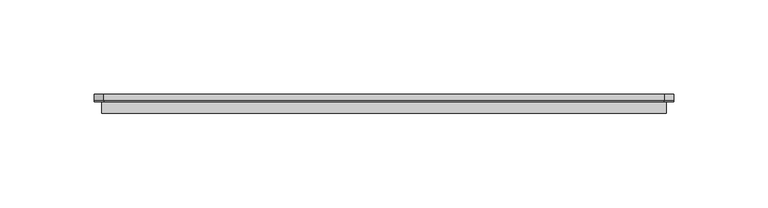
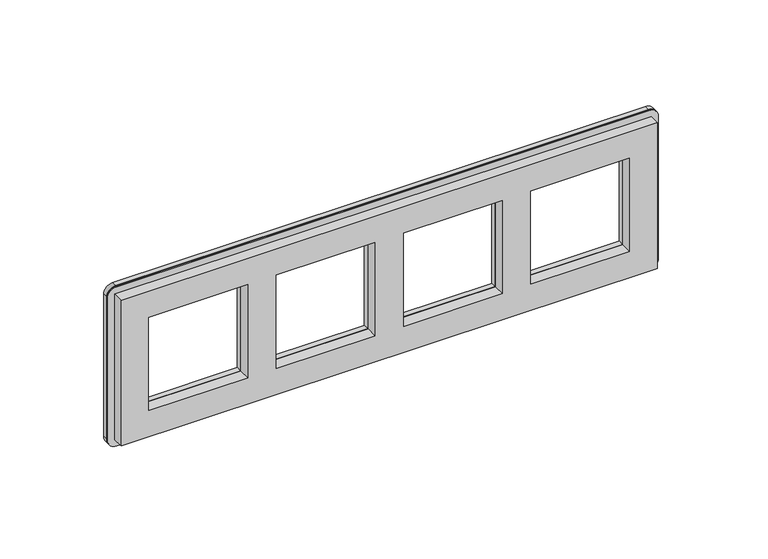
"""IFC4 building model written with IfcOpenShell, lengths in millimetres: proxy geometry, IEK_Brite_Рамка : x4_РУ-4-1-Бр металл алюм. RE."""

from ifc_helpers import new_model, si_unit, point, frame, frame_2d, origin, place, context, project, spatial, polyline, circle_curve, trimmed, segment, composite_curve, outline, extrude, source, transform, mapped, element, save
from ifc_brep_helpers import plane_surface, cylinder_surface, advanced_brep


def electrical_fixtures_f44dfe37(model_context):
    return source(origin(), model_context, "Body", "SolidModel", [
        extrude(outline(composite_curve([segment(trimmed(circle_curve(frame_2d((42.0, -255.0)), 5.0), [point((47.0, -255.0))], [point((42.0, -260.0))], False, "CARTESIAN"), True, "CONTINUOUS"), segment(polyline([(42.0, -260.0), (-42.0, -260.0)]), True, "CONTINUOUS"), segment(trimmed(circle_curve(frame_2d((-42.0, -255.0)), 5.0), [point((-42.0, -260.0))], [point((-47.0, -255.0))], False, "CARTESIAN"), True, "CONTINUOUS"), segment(polyline([(-47.0, -255.0), (-47.0, 42.0)]), True, "CONTINUOUS"), segment(trimmed(circle_curve(frame_2d((-42.0, 42.0)), 5.0), [point((-47.0, 42.0))], [point((-42.0, 47.0))], False, "CARTESIAN"), True, "CONTINUOUS"), segment(polyline([(-42.0, 47.0), (42.0, 47.0)]), True, "CONTINUOUS"), segment(trimmed(circle_curve(frame_2d((42.0, 42.0)), 5.0), [point((42.0, 47.0))], [point((47.0, 42.0))], False, "CARTESIAN"), True, "CONTINUOUS"), segment(polyline([(47.0, 42.0), (47.0, -255.0)]), True, "CONTINUOUS")], self_intersect=False), holes=[polyline([(-27.5, -240.5), (27.5, -240.5), (27.5, -185.5), (-27.5, -185.5), (-27.5, -240.5)]), polyline([(-27.5, -169.5), (27.5, -169.5), (27.5, -114.5), (-27.5, -114.5), (-27.5, -169.5)]), polyline([(-27.5, -98.5), (27.5, -98.5), (27.5, -43.5), (-27.5, -43.5), (-27.5, -98.5)]), polyline([(-27.5, -27.5), (27.5, -27.5), (27.5, 27.5), (-27.5, 27.5), (-27.5, -27.5)])]), frame((0.0, 7.0, 0.0), z_axis=(0.0, 1.0, 0.0), x_axis=(0.0, 0.0, 1.0)), (0.0, 0.0, 1.0), 3.0),
        advanced_brep(
        [(-255.0, 7.0, 47.0), (42.0, 7.0, 47.0), (47.0, 7.0, 42.0), (47.0, 7.0, -42.0), (42.0, 7.0, -47.0), (-255.0, 7.0, -47.0), (-260.0, 7.0, -42.0), (-260.0, 7.0, 42.0), (-240.5, 7.0, 27.5), (-240.5, 7.0, -27.5), (-185.5, 7.0, -27.5), (-185.5, 7.0, 27.5), (-169.5, 7.0, 27.5), (-169.5, 7.0, -27.5), (-114.5, 7.0, -27.5), (-114.5, 7.0, 27.5), (-98.5, 7.0, 27.5), (-98.5, 7.0, -27.5), (-43.5, 7.0, -27.5), (-43.5, 7.0, 27.5), (-27.5, 7.0, 27.5), (-27.5, 7.0, -27.5), (27.5, 7.0, -27.5), (27.5, 7.0, 27.5), (-256.0, 0.0, 43.0), (-256.0, 0.0, -43.0), (43.0, 0.0, -43.0), (43.0, 0.0, 43.0), (-240.5, 0.0, -27.5), (-240.5, 0.0, 27.5), (-185.5, 0.0, 27.5), (-185.5, 0.0, -27.5), (-169.5, 0.0, -27.5), (-169.5, 0.0, 27.5), (-114.5, 0.0, 27.5), (-114.5, 0.0, -27.5), (-98.5, 0.0, -27.5), (-98.5, 0.0, 27.5), (-43.5, 0.0, 27.5), (-43.5, 0.0, -27.5), (-27.5, 0.0, -27.5), (-27.5, 0.0, 27.5), (27.5, 0.0, 27.5), (27.5, 0.0, -27.5), (-256.0, 6.0, 43.0), (-256.0, 6.0, -43.0), (43.0, 6.0, -43.0), (43.0, 6.0, 43.0), (-255.0, 6.0, 47.0), (-260.0, 6.0, 42.0), (-260.0, 6.0, -42.0), (-255.0, 6.0, -47.0), (42.0, 6.0, -47.0), (47.0, 6.0, -42.0), (47.0, 6.0, 42.0), (42.0, 6.0, 47.0)],
        [
            (0, 1),
            (1, 2, circle_curve(frame((42.0, 7.0, 42.0), z_axis=(0.0, 1.0, 0.0), x_axis=(1.0, 0.0, 0.0)), 5.0)),
            (2, 3),
            (3, 4, circle_curve(frame((42.0, 7.0, -42.0), z_axis=(0.0, 1.0, 0.0), x_axis=(1.0, 0.0, 0.0)), 5.0)),
            (4, 5),
            (5, 6, circle_curve(frame((-255.0, 7.0, -42.0), z_axis=(0.0, 1.0, 0.0), x_axis=(1.0, 0.0, 0.0)), 5.0)),
            (6, 7),
            (7, 0, circle_curve(frame((-255.0, 7.0, 42.0), z_axis=(0.0, 1.0, 0.0), x_axis=(1.0, 0.0, 0.0)), 5.0)),
            (8, 9),
            (9, 10),
            (10, 11),
            (11, 8),
            (12, 13),
            (13, 14),
            (14, 15),
            (15, 12),
            (16, 17),
            (17, 18),
            (18, 19),
            (19, 16),
            (20, 21),
            (21, 22),
            (22, 23),
            (23, 20),
            (24, 25),
            (25, 26),
            (26, 27),
            (27, 24),
            (28, 29),
            (29, 30),
            (30, 31),
            (31, 28),
            (32, 33),
            (33, 34),
            (34, 35),
            (35, 32),
            (36, 37),
            (37, 38),
            (38, 39),
            (39, 36),
            (40, 41),
            (41, 42),
            (42, 43),
            (43, 40),
            (24, 44),
            (44, 45),
            (45, 25),
            (45, 46),
            (46, 26),
            (46, 47),
            (47, 27),
            (47, 44),
            (48, 49, circle_curve(frame((-255.0, 6.0, 42.0), z_axis=(0.0, -1.0, 0.0), x_axis=(1.0, 0.0, 0.0)), 5.0)),
            (49, 50),
            (50, 51, circle_curve(frame((-255.0, 6.0, -42.0), z_axis=(0.0, -1.0, 0.0), x_axis=(1.0, 0.0, 0.0)), 5.0)),
            (51, 52),
            (52, 53, circle_curve(frame((42.0, 6.0, -42.0), z_axis=(0.0, -1.0, 0.0), x_axis=(1.0, 0.0, 0.0)), 5.0)),
            (53, 54),
            (54, 55, circle_curve(frame((42.0, 6.0, 42.0), z_axis=(0.0, -1.0, 0.0), x_axis=(1.0, 0.0, 0.0)), 5.0)),
            (55, 48),
            (8, 29),
            (28, 9),
            (31, 10),
            (30, 11),
            (12, 33),
            (32, 13),
            (35, 14),
            (34, 15),
            (16, 37),
            (36, 17),
            (39, 18),
            (38, 19),
            (48, 0),
            (7, 49),
            (6, 50),
            (5, 51),
            (4, 52),
            (3, 53),
            (2, 54),
            (1, 55),
            (20, 41),
            (40, 21),
            (43, 22),
            (42, 23),
        ],
        [
            plane_surface(frame((-256.0, 7.0, 43.0), z_axis=(0.0, 1.0, 0.0), x_axis=(0.0, 0.0, 1.0))),
            plane_surface(frame((-256.0, 0.0, 43.0), z_axis=(0.0, -1.0, 0.0), x_axis=(0.0, 0.0, -1.0))),
            plane_surface(frame((-256.0, 0.0, 43.0), z_axis=(-1.0, 0.0, 0.0), x_axis=(0.0, 1.0, 0.0))),
            plane_surface(frame((-256.0, 0.0, -43.0), z_axis=(0.0, 0.0, -1.0), x_axis=(0.0, 1.0, 0.0))),
            plane_surface(frame((43.0, 0.0, -43.0), z_axis=(1.0, 0.0, 0.0), x_axis=(0.0, 1.0, 0.0))),
            plane_surface(frame((43.0, 0.0, 43.0), z_axis=(0.0, 0.0, 1.0), x_axis=(0.0, 1.0, 0.0))),
            plane_surface(frame((-250.0, 6.0, 42.0), z_axis=(0.0, -1.0, 0.0), x_axis=(0.0, 0.0, 1.0))),
            plane_surface(frame((-240.5, 0.0, 27.5), z_axis=(1.0, 0.0, 0.0), x_axis=(0.0, 1.0, 0.0))),
            plane_surface(frame((-240.5, 0.0, -27.5), z_axis=(0.0, 0.0, 1.0), x_axis=(0.0, 1.0, 0.0))),
            plane_surface(frame((-185.5, 0.0, -27.5), z_axis=(-1.0, 0.0, 0.0), x_axis=(0.0, 1.0, 0.0))),
            plane_surface(frame((-185.5, 0.0, 27.5), z_axis=(0.0, 0.0, -1.0), x_axis=(0.0, 1.0, 0.0))),
            plane_surface(frame((-169.5, 0.0, 27.5), z_axis=(1.0, 0.0, 0.0), x_axis=(0.0, 1.0, 0.0))),
            plane_surface(frame((-169.5, 0.0, -27.5), z_axis=(0.0, 0.0, 1.0), x_axis=(0.0, 1.0, 0.0))),
            plane_surface(frame((-114.5, 0.0, -27.5), z_axis=(-1.0, 0.0, 0.0), x_axis=(0.0, 1.0, 0.0))),
            plane_surface(frame((-114.5, 0.0, 27.5), z_axis=(0.0, 0.0, -1.0), x_axis=(0.0, 1.0, 0.0))),
            plane_surface(frame((-98.5, 0.0, 27.5), z_axis=(1.0, 0.0, 0.0), x_axis=(0.0, 1.0, 0.0))),
            plane_surface(frame((-98.5, 0.0, -27.5), z_axis=(0.0, 0.0, 1.0), x_axis=(0.0, 1.0, 0.0))),
            plane_surface(frame((-43.5, 0.0, -27.5), z_axis=(-1.0, 0.0, 0.0), x_axis=(0.0, 1.0, 0.0))),
            plane_surface(frame((-43.5, 0.0, 27.5), z_axis=(0.0, 0.0, -1.0), x_axis=(0.0, 1.0, 0.0))),
            cylinder_surface(frame((-255.0, 7.0, 42.0), z_axis=(0.0, -1.0, 0.0), x_axis=(1.0, 0.0, 0.0)), 5.0),
            plane_surface(frame((-260.0, 6.0, 42.0), z_axis=(-1.0, 0.0, 0.0), x_axis=(0.0, 1.0, 0.0))),
            cylinder_surface(frame((-255.0, 7.0, -42.0), z_axis=(0.0, -1.0, 0.0), x_axis=(1.0, 0.0, 0.0)), 5.0),
            plane_surface(frame((-255.0, 6.0, -47.0), z_axis=(0.0, 0.0, -1.0), x_axis=(0.0, 1.0, 0.0))),
            cylinder_surface(frame((42.0, 7.0, -42.0), z_axis=(0.0, -1.0, 0.0), x_axis=(1.0, 0.0, 0.0)), 5.0),
            plane_surface(frame((47.0, 6.0, -42.0), z_axis=(1.0, 0.0, 0.0), x_axis=(0.0, 1.0, 0.0))),
            cylinder_surface(frame((42.0, 7.0, 42.0), z_axis=(0.0, -1.0, 0.0), x_axis=(1.0, 0.0, 0.0)), 5.0),
            plane_surface(frame((42.0, 6.0, 47.0), z_axis=(0.0, 0.0, 1.0), x_axis=(0.0, 1.0, 0.0))),
            plane_surface(frame((-27.5, 0.0, 27.5), z_axis=(1.0, 0.0, 0.0), x_axis=(0.0, 1.0, 0.0))),
            plane_surface(frame((-27.5, 0.0, -27.5), z_axis=(0.0, 0.0, 1.0), x_axis=(0.0, 1.0, 0.0))),
            plane_surface(frame((27.5, 0.0, -27.5), z_axis=(-1.0, 0.0, 0.0), x_axis=(0.0, 1.0, 0.0))),
            plane_surface(frame((27.5, 0.0, 27.5), z_axis=(0.0, 0.0, -1.0), x_axis=(0.0, 1.0, 0.0))),
        ],
        [
            (0, [[1, 2, 3, 4, 5, 6, 7, 8], [9, 10, 11, 12], [13, 14, 15, 16], [17, 18, 19, 20], [21, 22, 23, 24]]),
            (1, [[25, 26, 27, 28], [29, 30, 31, 32], [33, 34, 35, 36], [37, 38, 39, 40], [41, 42, 43, 44]]),
            (2, [[-25, 45, 46, 47]]),
            (3, [[-26, -47, 48, 49]]),
            (4, [[-27, -49, 50, 51]]),
            (5, [[-28, -51, 52, -45]]),
            (6, [[53, 54, 55, 56, 57, 58, 59, 60], [-46, -52, -50, -48]]),
            (7, [[61, -29, 62, -9]]),
            (8, [[-62, -32, 63, -10]]),
            (9, [[-63, -31, 64, -11]]),
            (10, [[-61, -12, -64, -30]]),
            (11, [[65, -33, 66, -13]]),
            (12, [[-66, -36, 67, -14]]),
            (13, [[-67, -35, 68, -15]]),
            (14, [[-65, -16, -68, -34]]),
            (15, [[69, -37, 70, -17]]),
            (16, [[-70, -40, 71, -18]]),
            (17, [[-71, -39, 72, -19]]),
            (18, [[-69, -20, -72, -38]]),
            (19, [[-53, 73, -8, 74]]),
            (20, [[-54, -74, -7, 75]]),
            (21, [[-55, -75, -6, 76]]),
            (22, [[-56, -76, -5, 77]]),
            (23, [[-57, -77, -4, 78]]),
            (24, [[-58, -78, -3, 79]]),
            (25, [[-59, -79, -2, 80]]),
            (26, [[-60, -80, -1, -73]]),
            (27, [[81, -41, 82, -21]]),
            (28, [[-82, -44, 83, -22]]),
            (29, [[-83, -43, 84, -23]]),
            (30, [[-81, -24, -84, -42]]),
        ],
    ),
    ])


if __name__ == "__main__":
    model = new_model("IFC4")
    model_context = context("Model", 3, world=origin())
    ifc_project = project(units=[si_unit("LENGTHUNIT", "METRE", prefix="MILLI")], contexts=[model_context])
    site = spatial("IfcSite", under=ifc_project)
    building = spatial("IfcBuilding", under=site)
    placement = place(None, origin())
    electrical_fixtures_shape = electrical_fixtures_f44dfe37(model_context)
    element("IfcBuildingElementProxy", 1, Name="IEK_Brite_Рамка : x4_РУ-4-1-Бр металл алюм. RE", ObjectType="IEK_Brite_Рамка : x4_РУ-4-1-Бр металл алюм. RE", at=placement, inside=building, context=model_context, shape_type="MappedRepresentation", body=[
        mapped(electrical_fixtures_shape, transform((0.0, 0.0, 0.0), x_axis=(1.0, 0.0, 0.0), y_axis=(0.0, 1.0, 0.0), z_axis=(0.0, 0.0, 1.0))),
    ])
    save(model, "model.ifc")
